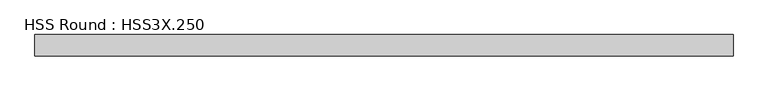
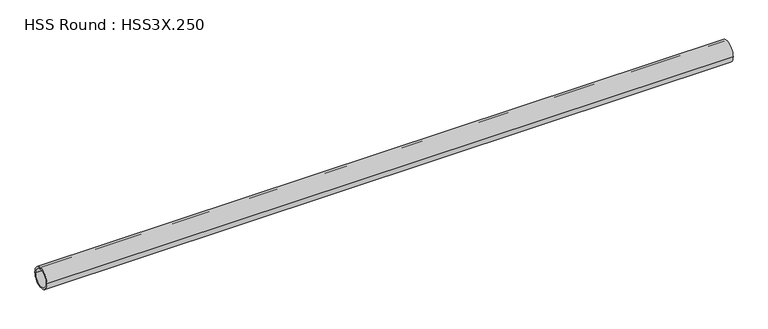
"""IFC4 building model written with IfcOpenShell, lengths in millimetres: member geometry, HSS Round : HSS3X.250."""

from ifc_helpers import new_model, si_unit, point, frame, origin, origin_2d, place, context, project, spatial, circle_curve, trimmed, segment, composite_curve, outline, extrude, source, transform, mapped, element, save


def hss_round_hss3x_250_433c4ffc(model_context):
    return source(origin(), model_context, "Body", "SweptSolid", [
        extrude(outline(composite_curve([segment(trimmed(circle_curve(origin_2d(), 38.1), [point((-38.1, 0.0))], [point((38.1, 0.0))], False, "CARTESIAN"), True, "CONTINUOUS"), segment(trimmed(circle_curve(origin_2d(), 38.1), [point((38.1, 0.0))], [point((-38.1, 0.0))], False, "CARTESIAN"), True, "CONTINUOUS")], self_intersect=False), holes=[composite_curve([segment(trimmed(circle_curve(origin_2d(), 31.75), [point((31.75, 0.0))], [point((-31.75, 0.0))], True, "CARTESIAN"), True, "CONTINUOUS"), segment(trimmed(circle_curve(origin_2d(), 31.75), [point((-31.75, 0.0))], [point((31.75, 0.0))], True, "CARTESIAN"), True, "CONTINUOUS")], self_intersect=False)]), frame((-1145.9666729, 0.0, 0.0), z_axis=(1.0, 0.0, 0.0), x_axis=(0.0, 1.0, 0.0)), (0.0, 0.0, 1.0), 2504.549705),
    ])


if __name__ == "__main__":
    model = new_model("IFC4")
    model_context = context("Model", 3, world=origin())
    ifc_project = project(units=[si_unit("LENGTHUNIT", "METRE", prefix="MILLI")], contexts=[model_context])
    site = spatial("IfcSite", under=ifc_project)
    building = spatial("IfcBuilding", under=site)
    placement = place(None, origin())
    hss_round_hss3x_250_shape = hss_round_hss3x_250_433c4ffc(model_context)
    element("IfcMember", 1, ObjectType="HSS Round : HSS3X.250", at=placement, inside=building, context=model_context, shape_type="MappedRepresentation", body=[
        mapped(hss_round_hss3x_250_shape, transform((0.0, 0.0, 0.0), x_axis=(1.0, 0.0, 0.0), y_axis=(0.0, 1.0, 0.0), z_axis=(0.0, 0.0, 1.0))),
    ])
    save(model, "model.ifc")
